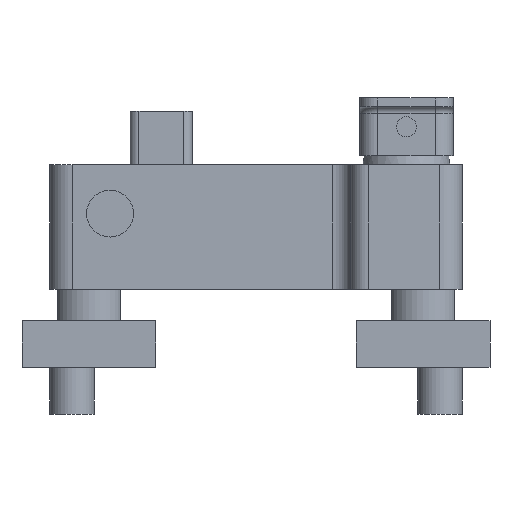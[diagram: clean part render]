
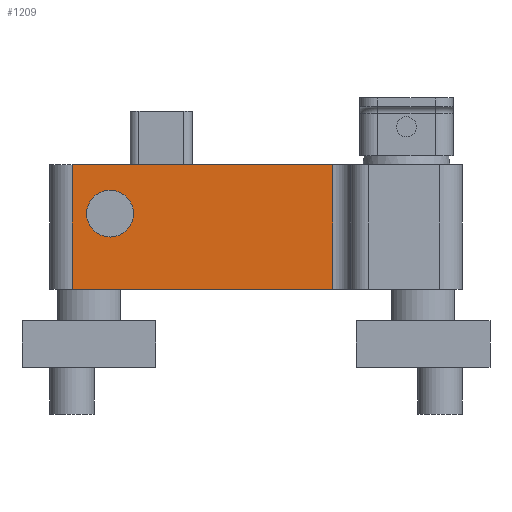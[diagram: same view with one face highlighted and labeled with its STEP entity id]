
A CAD part, front view. The second image highlights one B-rep face of the part: STEP entity #1209.
In plain terms, the highlighted planar face has unit normal (0, -1, 0).
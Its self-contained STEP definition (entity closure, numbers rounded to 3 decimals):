
#19=FACE_BOUND('',#381,.T.);
#66=LINE('',#1943,#176);
#75=LINE('',#1978,#185);
#76=LINE('',#1981,#186);
#77=LINE('',#1982,#187);
#176=VECTOR('',#1553,10.);
#185=VECTOR('',#1582,10.);
#186=VECTOR('',#1585,10.);
#187=VECTOR('',#1586,10.);
#306=FACE_OUTER_BOUND('',#380,.T.);
#380=EDGE_LOOP('',(#928,#929,#930,#931));
#381=EDGE_LOOP('',(#932));
#468=CIRCLE('',#1340,10.5);
#537=VERTEX_POINT('',#1940);
#538=VERTEX_POINT('',#1942);
#554=VERTEX_POINT('',#1976);
#555=VERTEX_POINT('',#1980);
#556=VERTEX_POINT('',#1983);
#676=EDGE_CURVE('',#537,#538,#66,.T.);
#694=EDGE_CURVE('',#554,#537,#75,.T.);
#695=EDGE_CURVE('',#555,#554,#76,.T.);
#696=EDGE_CURVE('',#538,#555,#77,.T.);
#697=EDGE_CURVE('',#556,#556,#468,.T.);
#928=ORIENTED_EDGE('',*,*,#694,.F.);
#929=ORIENTED_EDGE('',*,*,#695,.F.);
#930=ORIENTED_EDGE('',*,*,#696,.F.);
#931=ORIENTED_EDGE('',*,*,#676,.F.);
#932=ORIENTED_EDGE('',*,*,#697,.T.);
#1150=PLANE('',#1339);
#1209=ADVANCED_FACE('',(#306,#19),#1150,.T.);
#1339=AXIS2_PLACEMENT_3D('',#1979,#1583,#1584);
#1340=AXIS2_PLACEMENT_3D('',#1984,#1587,#1588);
#1553=DIRECTION('',(-1.,0.,0.));
#1582=DIRECTION('',(0.,0.,-1.));
#1583=DIRECTION('center_axis',(0.,-1.,0.));
#1584=DIRECTION('ref_axis',(-1.,0.,0.));
#1585=DIRECTION('',(1.,0.,0.));
#1586=DIRECTION('',(0.,0.,1.));
#1587=DIRECTION('center_axis',(0.,1.,0.));
#1588=DIRECTION('ref_axis',(0.,0.,1.));
#1940=CARTESIAN_POINT('',(62.5,-17.,-95.5));
#1942=CARTESIAN_POINT('',(-54.5,-17.,-95.5));
#1943=CARTESIAN_POINT('',(-64.5,-17.,-95.5));
#1976=CARTESIAN_POINT('',(62.5,-17.,-39.5));
#1978=CARTESIAN_POINT('',(62.5,-17.,-39.5));
#1979=CARTESIAN_POINT('Origin',(70.5,-17.,-39.5));
#1980=CARTESIAN_POINT('',(-54.5,-17.,-39.5));
#1981=CARTESIAN_POINT('',(-64.5,-17.,-39.5));
#1982=CARTESIAN_POINT('',(-54.5,-17.,-39.5));
#1983=CARTESIAN_POINT('',(-37.5,-17.,-72.));
#1984=CARTESIAN_POINT('Origin',(-37.5,-17.,-61.5));
